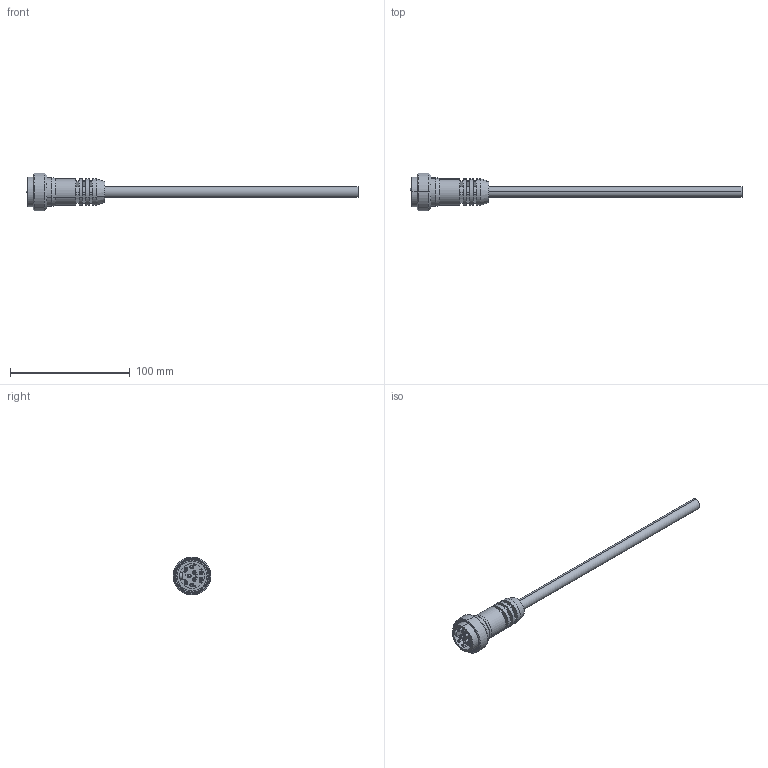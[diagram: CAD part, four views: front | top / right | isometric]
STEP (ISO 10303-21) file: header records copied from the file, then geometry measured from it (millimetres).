
FILE_DESCRIPTION (( 'STEP AP214' ), '1' );
FILE_NAME ('MIN-9MPX-ZZ.STEP', '2010-12-23T23:46:17', ( 'Bruce' ), ( '' ), 'SwSTEP 2.0', 'SolidWorks 2010', '' );
FILE_SCHEMA (( 'AUTOMOTIVE_DESIGN' ));
Length unit declared in the file: millimetre
Products named in the file (1): MIN-9MPX-ZZ
Bounding box: 277.68 x 31.75 x 31.75 mm (x, y, z)
Volume: 38105 mm3; surface area: 17016 mm2
Topology: 3 solids, 3 shells, 318 faces, 812 edges, 516 vertices
Faces by surface type: plane 118, cylinder 83, bspline 66, cone 33, sphere 18
Entity records: 19779 total; most frequent: CARTESIAN_POINT 8989, ORIENTED_EDGE 1588, DIRECTION 1342, EDGE_CURVE 794, VERTEX_POINT 516, AXIS2_PLACEMENT_3D 454, VECTOR 434, LINE 434
